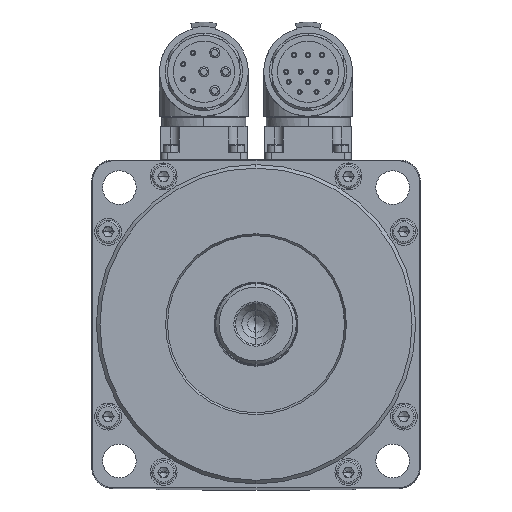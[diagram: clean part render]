
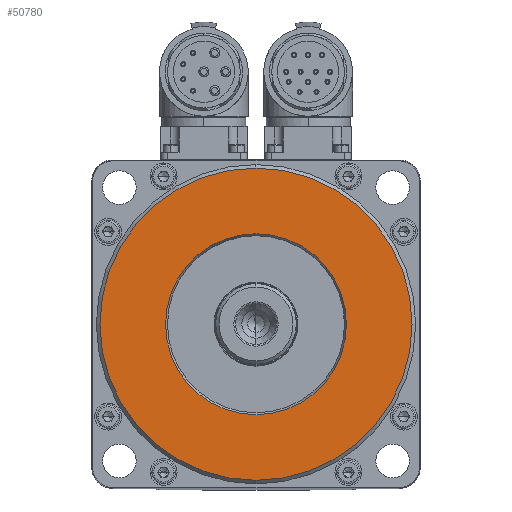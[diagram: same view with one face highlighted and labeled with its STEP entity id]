
A CAD part, top view. The second image highlights one B-rep face of the part: STEP entity #50780.
In plain terms, the highlighted planar face has unit normal (0, 0, 1).
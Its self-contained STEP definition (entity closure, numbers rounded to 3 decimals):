
#4 = DIRECTION ( 'NONE',  ( 0., 1., 0. ) ) ;
#676 = AXIS2_PLACEMENT_3D ( 'NONE', #59521, #14036, #14248 ) ;
#3843 = AXIS2_PLACEMENT_3D ( 'NONE', #35232, #50028, #15783 ) ;
#5968 = EDGE_CURVE ( 'NONE', #41886, #25827, #56300, .T. ) ;
#6121 = EDGE_LOOP ( 'NONE', ( #10128, #7865 ) ) ;
#7035 = CIRCLE ( 'NONE', #51473, 46.433 ) ;
#7865 = ORIENTED_EDGE ( 'NONE', *, *, #17897, .T. ) ;
#8001 = EDGE_CURVE ( 'NONE', #25827, #41886, #7035, .T. ) ;
#8287 = CARTESIAN_POINT ( 'NONE',  ( 0., 26.908, 75.864 ) ) ;
#8572 = EDGE_LOOP ( 'NONE', ( #27742, #61823 ) ) ;
#8860 = DIRECTION ( 'NONE',  ( 0., 1., 0. ) ) ;
#9212 = CARTESIAN_POINT ( 'NONE',  ( 0., -26.908, 75.864 ) ) ;
#10128 = ORIENTED_EDGE ( 'NONE', *, *, #34044, .T. ) ;
#13950 = PLANE ( 'NONE',  #22037 ) ;
#14036 = DIRECTION ( 'NONE',  ( 0., 0., -1. ) ) ;
#14248 = DIRECTION ( 'NONE',  ( 0., 1., 0. ) ) ;
#15783 = DIRECTION ( 'NONE',  ( 0., 1., 0. ) ) ;
#17897 = EDGE_CURVE ( 'NONE', #34818, #34341, #33937, .T. ) ;
#18500 = CARTESIAN_POINT ( 'NONE',  ( 0., 0., 75.864 ) ) ;
#18916 = CIRCLE ( 'NONE', #3843, 26.908 ) ;
#22037 = AXIS2_PLACEMENT_3D ( 'NONE', #18500, #33153, #63350 ) ;
#25827 = VERTEX_POINT ( 'NONE', #56819 ) ;
#27742 = ORIENTED_EDGE ( 'NONE', *, *, #5968, .T. ) ;
#28986 = FACE_OUTER_BOUND ( 'NONE', #8572, .T. ) ;
#33153 = DIRECTION ( 'NONE',  ( 0., 0., -1. ) ) ;
#33937 = CIRCLE ( 'NONE', #676, 26.908 ) ;
#34044 = EDGE_CURVE ( 'NONE', #34341, #34818, #18916, .T. ) ;
#34341 = VERTEX_POINT ( 'NONE', #9212 ) ;
#34818 = VERTEX_POINT ( 'NONE', #8287 ) ;
#35035 = AXIS2_PLACEMENT_3D ( 'NONE', #58686, #48746, #8860 ) ;
#35232 = CARTESIAN_POINT ( 'NONE',  ( 0., 0., 75.864 ) ) ;
#41436 = DIRECTION ( 'NONE',  ( 0., 0., 1. ) ) ;
#41886 = VERTEX_POINT ( 'NONE', #63066 ) ;
#47771 = FACE_BOUND ( 'NONE', #6121, .T. ) ;
#48746 = DIRECTION ( 'NONE',  ( 0., 0., 1. ) ) ;
#50028 = DIRECTION ( 'NONE',  ( 0., 0., -1. ) ) ;
#50780 = ADVANCED_FACE ( 'NONE', ( #28986, #47771 ), #13950, .F. ) ;
#51001 = CARTESIAN_POINT ( 'NONE',  ( 0., 0., 75.864 ) ) ;
#51473 = AXIS2_PLACEMENT_3D ( 'NONE', #51001, #41436, #4 ) ;
#56300 = CIRCLE ( 'NONE', #35035, 46.433 ) ;
#56819 = CARTESIAN_POINT ( 'NONE',  ( 0., -46.433, 75.864 ) ) ;
#58686 = CARTESIAN_POINT ( 'NONE',  ( 0., 0., 75.864 ) ) ;
#59521 = CARTESIAN_POINT ( 'NONE',  ( 0., 0., 75.864 ) ) ;
#61823 = ORIENTED_EDGE ( 'NONE', *, *, #8001, .T. ) ;
#63066 = CARTESIAN_POINT ( 'NONE',  ( 0., 46.433, 75.864 ) ) ;
#63350 = DIRECTION ( 'NONE',  ( 0., 1., 0. ) ) ;
